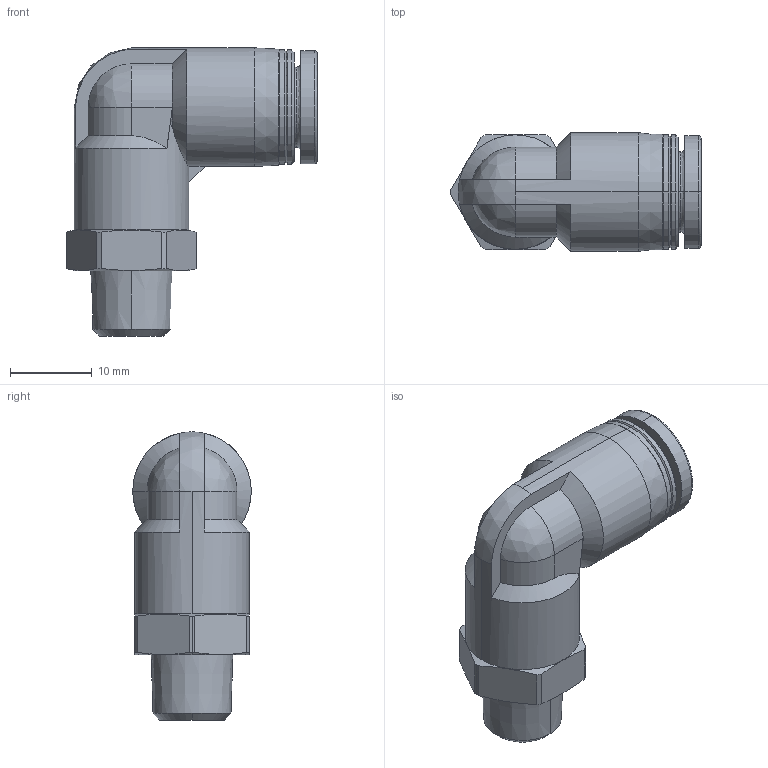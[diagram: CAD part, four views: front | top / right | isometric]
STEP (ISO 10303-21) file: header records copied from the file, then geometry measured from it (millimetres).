
FILE_DESCRIPTION (( 'STEP AP214' ), '1' );
FILE_NAME ('APL8-01.STEP', '2019-12-05T06:05:22', ( '微软用户' ), ( '微软中国' ), 'SwSTEP 2.0', 'SolidWorks 2016', '' );
FILE_SCHEMA (( 'AUTOMOTIVE_DESIGN' ));
Length unit declared in the file: millimetre
Products named in the file (1): APL8-01
Bounding box: 30.6 x 14.5 x 35.25 mm (x, y, z)
Volume: 5815.7 mm3; surface area: 3026.4 mm2
Topology: 1 solids, 1 shells, 83 faces, 199 edges, 124 vertices
Faces by surface type: cylinder 27, cone 26, plane 23, bspline 7
Entity records: 2967 total; most frequent: CARTESIAN_POINT 1060, ORIENTED_EDGE 398, DIRECTION 389, EDGE_CURVE 199, AXIS2_PLACEMENT_3D 160, VERTEX_POINT 124, EDGE_LOOP 89, CIRCLE 83
